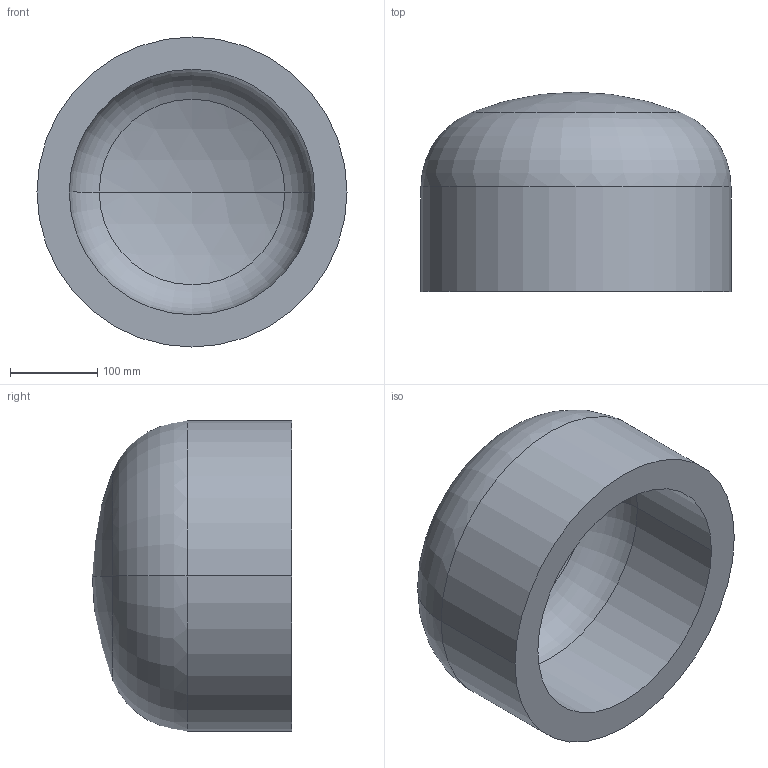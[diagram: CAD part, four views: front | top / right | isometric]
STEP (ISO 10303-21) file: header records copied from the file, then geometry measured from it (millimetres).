
FILE_DESCRIPTION (( 'STEP AP203' ), '1' );
FILE_NAME ('DIN 28013 Korbbogenform_-_Boden DIN 28013 - 355,6 x 120 - I - s=37.step', '2016-07-01T07:47:56', ( '' ), ( '' ), 'SwSTEP 2.0', 'SolidWorks 2013', '' );
FILE_SCHEMA (( 'CONFIG_CONTROL_DESIGN' ));
Length unit declared in the file: millimetre
Products named in the file (1): DIN 28013 Korbbogenform_-_Boden DIN 28013 - 355,6 x 120 - I - s=37
Bounding box: 355.6 x 228.68 x 355.6 mm (x, y, z)
Volume: 8924453.5 mm3; surface area: 522303.8 mm2
Topology: 1 solids, 1 shells, 13 faces, 24 edges, 14 vertices
Faces by surface type: torus 4, cylinder 4, sphere 4, plane 1
Entity records: 407 total; most frequent: DIRECTION 72, CARTESIAN_POINT 52, ORIENTED_EDGE 48, AXIS2_PLACEMENT_3D 34, EDGE_CURVE 24, CIRCLE 20, VERTEX_POINT 14, EDGE_LOOP 14
